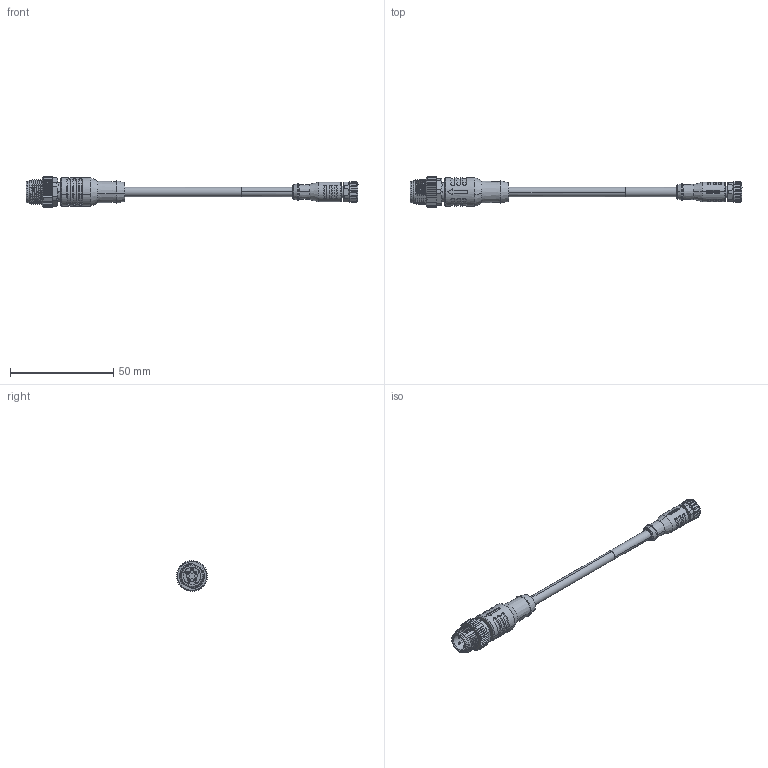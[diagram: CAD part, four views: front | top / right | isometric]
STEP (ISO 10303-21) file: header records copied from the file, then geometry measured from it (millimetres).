
FILE_DESCRIPTION (( 'STEP AP203' ), '1' );
FILE_NAME ('63D311-XXX.STEP', '2024-12-04T07:56:37', ( 'L' ), ( '' ), 'SwSTEP 2.0', 'SolidWorks 2019', '' );
FILE_SCHEMA (( 'CONFIG_CONTROL_DESIGN' ));
Products named in the file (1): 63D311-XXX
Bounding box: 160.6 x 14.99 x 15 mm (x, y, z)
Volume: 8223.6 mm3; surface area: 6311.1 mm2
Topology: 1 solids, 5 shells, 1039 faces, 2926 edges, 1943 vertices
Faces by surface type: plane 473, cylinder 285, bspline 129, cone 126, torus 26
Entity records: 52523 total; most frequent: CARTESIAN_POINT 27770, ORIENTED_EDGE 5852, DIRECTION 4169, EDGE_CURVE 2926, VERTEX_POINT 1943, AXIS2_PLACEMENT_3D 1493, VECTOR 1183, LINE 1183
